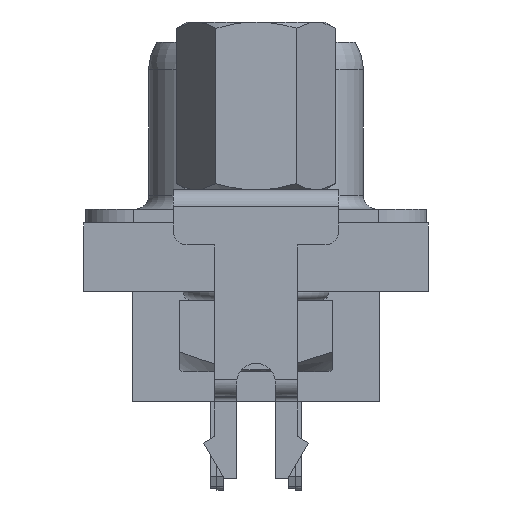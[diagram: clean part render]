
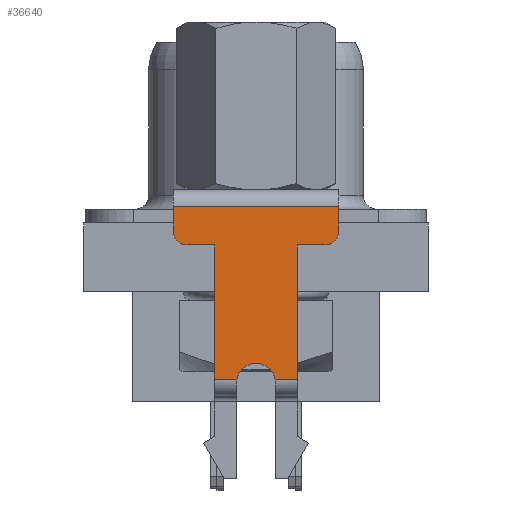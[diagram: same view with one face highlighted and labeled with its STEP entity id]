
A CAD part, left-side view. The second image highlights one B-rep face of the part: STEP entity #36640.
In plain terms, the highlighted planar face has unit normal (-1, 0, 0).
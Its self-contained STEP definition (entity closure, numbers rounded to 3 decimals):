
#129 = LINE ( 'NONE', #25228, #7838 ) ;
#159 = VECTOR ( 'NONE', #5715, 1000. ) ;
#1320 = CARTESIAN_POINT ( 'NONE',  ( -35.25, 3., 3.1 ) ) ;
#1672 = VECTOR ( 'NONE', #11549, 1000. ) ;
#2230 = ORIENTED_EDGE ( 'NONE', *, *, #16511, .F. ) ;
#3497 = ORIENTED_EDGE ( 'NONE', *, *, #5659, .F. ) ;
#4641 = DIRECTION ( 'NONE',  ( -1., 0., 0. ) ) ;
#4821 = CARTESIAN_POINT ( 'NONE',  ( -35.25, 1.5, 1.7 ) ) ;
#5659 = EDGE_CURVE ( 'NONE', #22623, #16238, #5999, .T. ) ;
#5690 = ORIENTED_EDGE ( 'NONE', *, *, #19118, .T. ) ;
#5715 = DIRECTION ( 'NONE',  ( 0., -1., 0. ) ) ;
#5999 = LINE ( 'NONE', #33042, #16984 ) ;
#6127 = CARTESIAN_POINT ( 'NONE',  ( -35.25, -3., 3.1 ) ) ;
#7392 = ORIENTED_EDGE ( 'NONE', *, *, #7735, .T. ) ;
#7735 = EDGE_CURVE ( 'NONE', #25307, #28722, #32501, .T. ) ;
#7838 = VECTOR ( 'NONE', #21900, 1000. ) ;
#8001 = VECTOR ( 'NONE', #32146, 1000. ) ;
#8444 = CARTESIAN_POINT ( 'NONE',  ( -35.25, -1.5, 1.7 ) ) ;
#9376 = CARTESIAN_POINT ( 'NONE',  ( -35.25, 2.5, 1.7 ) ) ;
#9948 = EDGE_LOOP ( 'NONE', ( #16151, #14075, #32048, #3497, #5690, #7392, #20653, #27703, #15146, #29345, #2230, #11312 ) ) ;
#10369 = DIRECTION ( 'NONE',  ( 0., 0., 1. ) ) ;
#10739 = VERTEX_POINT ( 'NONE', #11497 ) ;
#11312 = ORIENTED_EDGE ( 'NONE', *, *, #33850, .T. ) ;
#11497 = CARTESIAN_POINT ( 'NONE',  ( -35.25, 3., 2.2 ) ) ;
#11549 = DIRECTION ( 'NONE',  ( 0., 0., -1. ) ) ;
#11727 = CARTESIAN_POINT ( 'NONE',  ( -35.25, 0.7, -3.2 ) ) ;
#11806 = CARTESIAN_POINT ( 'NONE',  ( -35.25, -1.5, 1.7 ) ) ;
#12534 = DIRECTION ( 'NONE',  ( 0., -1., 0. ) ) ;
#13813 = CIRCLE ( 'NONE', #16710, 0.7 ) ;
#14075 = ORIENTED_EDGE ( 'NONE', *, *, #14860, .T. ) ;
#14375 = VECTOR ( 'NONE', #25583, 1000. ) ;
#14472 = CARTESIAN_POINT ( 'NONE',  ( -35.25, -3., 2.2 ) ) ;
#14860 = EDGE_CURVE ( 'NONE', #36025, #29884, #34496, .T. ) ;
#15146 = ORIENTED_EDGE ( 'NONE', *, *, #27080, .T. ) ;
#15189 = LINE ( 'NONE', #4821, #8001 ) ;
#15487 = DIRECTION ( 'NONE',  ( -1., 0., 0. ) ) ;
#15502 = CARTESIAN_POINT ( 'NONE',  ( -35.25, 2.5, 2.2 ) ) ;
#16151 = ORIENTED_EDGE ( 'NONE', *, *, #36829, .F. ) ;
#16238 = VERTEX_POINT ( 'NONE', #8444 ) ;
#16511 = EDGE_CURVE ( 'NONE', #19017, #37777, #15189, .T. ) ;
#16710 = AXIS2_PLACEMENT_3D ( 'NONE', #34073, #15487, #12534 ) ;
#16984 = VECTOR ( 'NONE', #36238, 1000. ) ;
#17531 = EDGE_CURVE ( 'NONE', #28722, #38516, #33286, .T. ) ;
#18600 = DIRECTION ( 'NONE',  ( 0., -1., 0. ) ) ;
#18850 = CARTESIAN_POINT ( 'NONE',  ( -35.25, 1.5, 1.7 ) ) ;
#19017 = VERTEX_POINT ( 'NONE', #22751 ) ;
#19118 = EDGE_CURVE ( 'NONE', #22623, #25307, #30843, .T. ) ;
#19146 = FACE_OUTER_BOUND ( 'NONE', #9948, .T. ) ;
#19347 = VERTEX_POINT ( 'NONE', #26672 ) ;
#19360 = DIRECTION ( 'NONE',  ( 0., 0., 1. ) ) ;
#20006 = AXIS2_PLACEMENT_3D ( 'NONE', #33789, #33932, #30745 ) ;
#20653 = ORIENTED_EDGE ( 'NONE', *, *, #17531, .T. ) ;
#21537 = DIRECTION ( 'NONE',  ( 0., 1., 0. ) ) ;
#21548 = CARTESIAN_POINT ( 'NONE',  ( -35.25, -2.5, 1.7 ) ) ;
#21900 = DIRECTION ( 'NONE',  ( 0., 1., 0. ) ) ;
#22523 = EDGE_CURVE ( 'NONE', #37777, #25622, #129, .T. ) ;
#22551 = CARTESIAN_POINT ( 'NONE',  ( -35.25, -3., -6.8 ) ) ;
#22623 = VERTEX_POINT ( 'NONE', #21548 ) ;
#22751 = CARTESIAN_POINT ( 'NONE',  ( -35.25, 1.5, -3.2 ) ) ;
#23173 = EDGE_CURVE ( 'NONE', #10739, #38516, #32724, .T. ) ;
#24601 = VECTOR ( 'NONE', #19360, 1000. ) ;
#25228 = CARTESIAN_POINT ( 'NONE',  ( -35.25, 3., 1.7 ) ) ;
#25307 = VERTEX_POINT ( 'NONE', #14472 ) ;
#25583 = DIRECTION ( 'NONE',  ( 0., -1., 0. ) ) ;
#25622 = VERTEX_POINT ( 'NONE', #9376 ) ;
#25675 = PLANE ( 'NONE',  #39491 ) ;
#26521 = EDGE_CURVE ( 'NONE', #16238, #29884, #38535, .T. ) ;
#26652 = CARTESIAN_POINT ( 'NONE',  ( -35.25, -1.5, -3.2 ) ) ;
#26672 = CARTESIAN_POINT ( 'NONE',  ( -35.25, 0.693, -3.2 ) ) ;
#27080 = EDGE_CURVE ( 'NONE', #10739, #25622, #38962, .T. ) ;
#27703 = ORIENTED_EDGE ( 'NONE', *, *, #23173, .F. ) ;
#28305 = CARTESIAN_POINT ( 'NONE',  ( -35.25, 3., -6.8 ) ) ;
#28666 = CARTESIAN_POINT ( 'NONE',  ( -35.25, -0.693, -3.2 ) ) ;
#28722 = VERTEX_POINT ( 'NONE', #32302 ) ;
#29018 = CARTESIAN_POINT ( 'NONE',  ( -35.25, -3., -6.8 ) ) ;
#29345 = ORIENTED_EDGE ( 'NONE', *, *, #22523, .F. ) ;
#29437 = LINE ( 'NONE', #11727, #159 ) ;
#29884 = VERTEX_POINT ( 'NONE', #26652 ) ;
#30745 = DIRECTION ( 'NONE',  ( 0., -1., 0. ) ) ;
#30843 = CIRCLE ( 'NONE', #20006, 0.5 ) ;
#31050 = VECTOR ( 'NONE', #10369, 1000. ) ;
#31724 = CARTESIAN_POINT ( 'NONE',  ( -35.25, -1.5, -3.2 ) ) ;
#32048 = ORIENTED_EDGE ( 'NONE', *, *, #26521, .F. ) ;
#32146 = DIRECTION ( 'NONE',  ( 0., 0., 1. ) ) ;
#32302 = CARTESIAN_POINT ( 'NONE',  ( -35.25, -3., 3.1 ) ) ;
#32501 = LINE ( 'NONE', #22551, #31050 ) ;
#32724 = LINE ( 'NONE', #28305, #24601 ) ;
#33042 = CARTESIAN_POINT ( 'NONE',  ( -35.25, -3., 1.7 ) ) ;
#33286 = LINE ( 'NONE', #6127, #35231 ) ;
#33789 = CARTESIAN_POINT ( 'NONE',  ( -35.25, -2.5, 2.2 ) ) ;
#33850 = EDGE_CURVE ( 'NONE', #19017, #19347, #29437, .T. ) ;
#33932 = DIRECTION ( 'NONE',  ( -1., 0., 0. ) ) ;
#34073 = CARTESIAN_POINT ( 'NONE',  ( -35.25, 0., -3.3 ) ) ;
#34496 = LINE ( 'NONE', #31724, #14375 ) ;
#35095 = AXIS2_PLACEMENT_3D ( 'NONE', #15502, #36898, #18600 ) ;
#35231 = VECTOR ( 'NONE', #21537, 1000. ) ;
#36025 = VERTEX_POINT ( 'NONE', #28666 ) ;
#36238 = DIRECTION ( 'NONE',  ( 0., 1., 0. ) ) ;
#36640 = ADVANCED_FACE ( 'NONE', ( #19146 ), #25675, .T. ) ;
#36829 = EDGE_CURVE ( 'NONE', #36025, #19347, #13813, .T. ) ;
#36898 = DIRECTION ( 'NONE',  ( -1., 0., 0. ) ) ;
#37777 = VERTEX_POINT ( 'NONE', #18850 ) ;
#37832 = DIRECTION ( 'NONE',  ( 0., -1., 0. ) ) ;
#38516 = VERTEX_POINT ( 'NONE', #1320 ) ;
#38535 = LINE ( 'NONE', #11806, #1672 ) ;
#38962 = CIRCLE ( 'NONE', #35095, 0.5 ) ;
#39491 = AXIS2_PLACEMENT_3D ( 'NONE', #29018, #4641, #37832 ) ;
